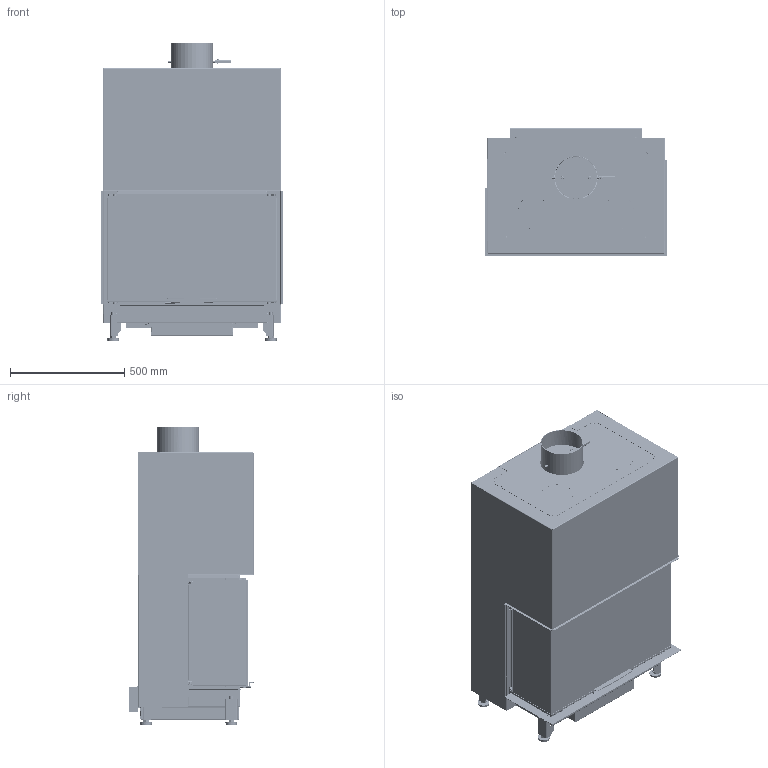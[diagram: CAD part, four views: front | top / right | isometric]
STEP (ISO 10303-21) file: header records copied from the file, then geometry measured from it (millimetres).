
FILE_DESCRIPTION(/* description */ (''),/* implementation_level */ '2;1');
FILE_NAME(/* name */ 'C:\ADSK_DM_WS\CAD_3D\03 Geraete\RAS 50x80x42\Zeichnungen\2023-01668.stp',/* time_stamp */ '2023-05-02T07:28:12+02:00',/* author */ ('CPI'),/* organization */ (''),/* preprocessor_version */ 'ST-DEVELOPER v18.1',/* originating_system */ 'Autodesk Inventor 2022',/* authorisation */ '');
FILE_SCHEMA (('AUTOMOTIVE_DESIGN { 1 0 10303 214 3 1 1 }'));
Products named in the file (9): 2023-01668; 2023-01661; 2023-01658; 2023-01657; 2023-01642; 2023-01636; 2023-01634; 2023-01633; 2022-04522
Assembly tree (8 placements, depth 2):
  2023-01668
    2023-01661
    2023-01658
    2023-01657
    2023-01642
    2023-01636
    2023-01634
    2023-01633
    2022-04522
Bounding box: 800 x 559 x 1301.02 mm (x, y, z)
Volume: 35331656.7 mm3; surface area: 18034896.1 mm2
Topology: 25 solids, 50 shells, 9313 faces, 25519 edges, 16199 vertices
Faces by surface type: plane 5575, cylinder 3145, bspline 312, cone 183, torus 97, sphere 1
Full cylindrical faces by diameter (mm): 3.242 x6, 4 x2, 4.5 x4, 4.8 x6, 5 x10, 6 x4, 6.03 x2, 7.5 x8, 7.8 x2, 7.9 x2, 8 x4, 8.2 x1, 9 x2, 9.5 x18, 10 x9, 10.21 x4, 11 x5, 11.192 x2, 11.4 x4, 12 x7, 13.502 x4, 14 x2, 15 x2, 16 x17, 18 x4, 20 x4, 30 x4, 163 x1, 190 x1, 333 x1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
Entity records: 312257 total; most frequent: CARTESIAN_POINT 68225, ORIENTED_EDGE 50908, DIRECTION 49547, EDGE_CURVE 25542, LINE 16819, VECTOR 16819, AXIS2_PLACEMENT_3D 16364, VERTEX_POINT 16211
